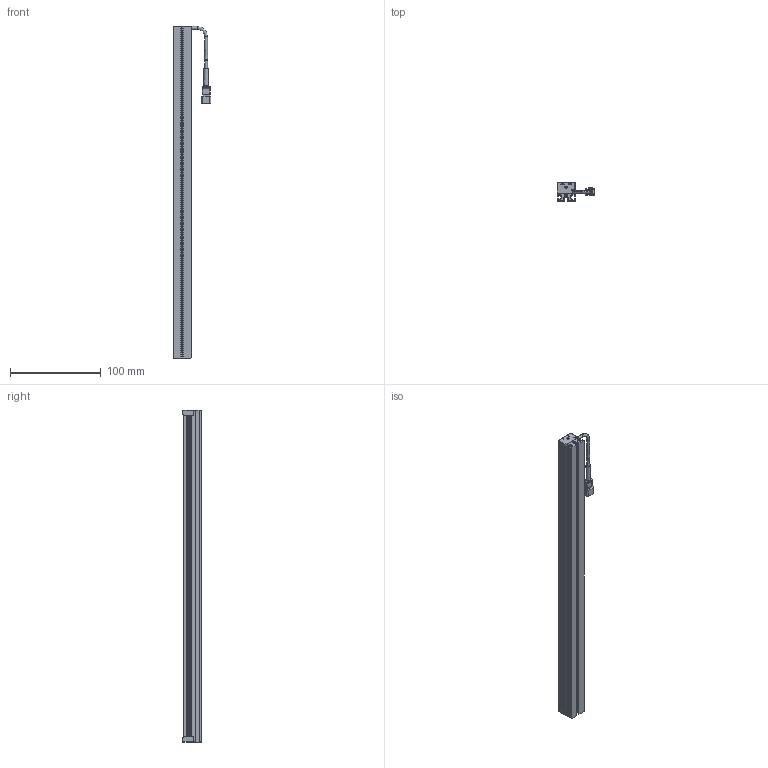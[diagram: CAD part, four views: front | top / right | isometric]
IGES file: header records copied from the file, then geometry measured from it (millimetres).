
Start section: SolidWorks IGES file using NURBS representation for surfaces
Global section: file name: \\nassrv01\ccs_c$\PRODUCTS\80_その他テーマ\RD32114_LDL2-GR2特注の標準化\02_図面\提出用\3D\11_LDL2-353X16GR2\41x16_LDL2-353X16GR2.IGS; native system: SolidWorks 2022; preprocessor: SolidWorks 2022; author: midorikawast; date: 240930.163548; units: millimetre
Bounding box: 41.75 x 20 x 365 mm (x, y, z)
Surface area: 74186.1 mm2 (no closed solid volume)
Topology: 0 solids, 0 shells, 430 faces, 4198 edges, 4190 vertices
Faces by surface type: bspline 430
